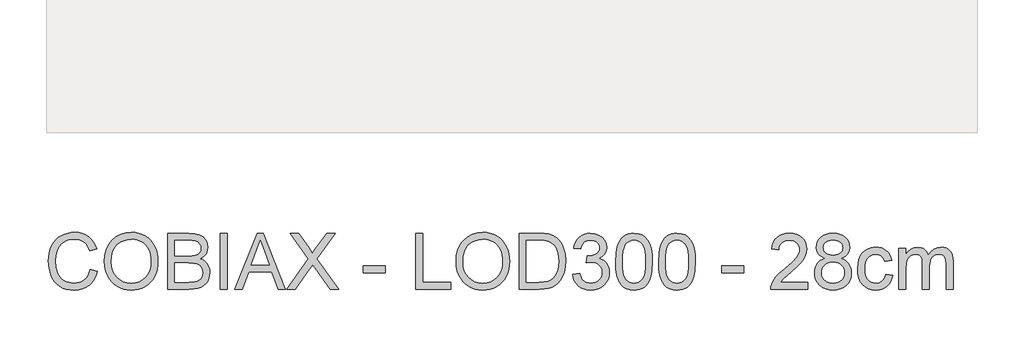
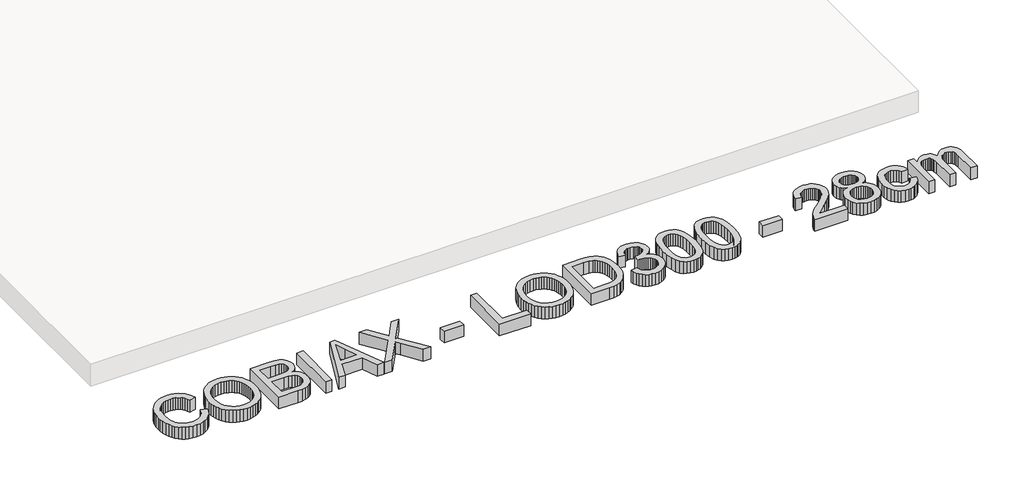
# One storey, part 14 of 18: 1 proxy.
"""IFC4 building model written with IfcOpenShell, lengths in millimetres."""

import ifcopenshell
import ifcopenshell.guid

model = None  # the IFC model being written
_history = None  # IfcOwnerHistory: only IFC2X3 demands one
_inside = {}  # id of a spatial element -> (the spatial element, [elements in it])
_under = {}  # id of a project, library or spatial element -> (it, [spatial elements below it])
_declared = {}  # id of a project -> (the project, [libraries it declares])
_typed = {}  # id of a type object -> (the type object, [elements of that type])
_made_of = {}  # id of a material, layer set ... -> (it, [elements and type objects made of it])


def new_model(schema):
    """Start an empty IFC model of exactly this schema.

    Asked for "IFC4X3", IfcOpenShell would pick the latest addendum, in which some entities
    have other attributes; the version numbers below select the first issue.
    IFC2X3 requires an IfcOwnerHistory on every rooted entity: one is made here for all.
    """
    global model, _history
    if schema == "IFC4X3":
        model = ifcopenshell.file(schema_version=(4, 3, 0, 0))
    else:
        model = ifcopenshell.file(schema=schema)
    _inside.clear()
    _under.clear()
    _declared.clear()
    _typed.clear()
    _made_of.clear()
    _history = None
    if model.schema == "IFC2X3":
        org = make("IfcOrganization", Name="unknown")
        user = make(
            "IfcPersonAndOrganization",
            ThePerson=make("IfcPerson", FamilyName="unknown"),
            TheOrganization=org,
        )
        app = make(
            "IfcApplication",
            ApplicationDeveloper=org,
            Version="unknown",
            ApplicationFullName="unknown",
            ApplicationIdentifier="unknown",
        )
        _history = make(
            "IfcOwnerHistory",
            OwningUser=user,
            OwningApplication=app,
            ChangeAction="ADDED",
            CreationDate=0,
        )
    return model


def make(cls, **values):
    """One entity of the class cls with the attributes given. An attribute that is None is left unset."""
    return model.create_entity(
        cls, **{name: value for name, value in values.items() if value is not None}
    )


def rooted(cls, **values):
    """An entity with a GlobalId (a new one), such as an element, a storey or a relation."""
    return make(cls, GlobalId=ifcopenshell.guid.new(), OwnerHistory=_history, **values)


def si_unit(unit_type, name, prefix=None):
    """IfcSIUnit, for example si_unit("LENGTHUNIT", "METRE", prefix="MILLI")."""
    return make("IfcSIUnit", UnitType=unit_type, Prefix=prefix, Name=name)


def assignment(units):
    """IfcUnitAssignment: the units of a project."""
    return None if units is None else make("IfcUnitAssignment", Units=units)


def point(xyz):
    """IfcCartesianPoint."""
    return None if xyz is None else make("IfcCartesianPoint", Coordinates=xyz)


def direction(xyz):
    """IfcDirection."""
    return None if xyz is None else make("IfcDirection", DirectionRatios=xyz)


def frame(location, z_axis=None, x_axis=None):
    """IfcAxis2Placement3D, a coordinate frame: its origin and axes. An axis left out is left unset."""
    return make(
        "IfcAxis2Placement3D",
        Location=point(location),
        Axis=direction(z_axis),
        RefDirection=direction(x_axis),
    )


def origin():
    """The frame at (0, 0, 0) with its axes left unset."""
    return frame((0.0, 0.0, 0.0))


def origin_with_axes():
    """The frame at (0, 0, 0) with the z axis (0, 0, 1) and the x axis (1, 0, 0) written out."""
    return frame((0.0, 0.0, 0.0), z_axis=(0.0, 0.0, 1.0), x_axis=(1.0, 0.0, 0.0))


def place(relative_to, where):
    """IfcLocalPlacement: puts the frame where relative to a parent placement (None: the world)."""
    return make(
        "IfcLocalPlacement", PlacementRelTo=relative_to, RelativePlacement=where
    )


def context(
    kind, dimensions, precision=None, world=None, true_north=None, identifier=None
):
    """IfcGeometricRepresentationContext, for example the 3D "Model" context."""
    return make(
        "IfcGeometricRepresentationContext",
        ContextIdentifier=identifier,
        ContextType=kind,
        CoordinateSpaceDimension=dimensions,
        Precision=precision,
        WorldCoordinateSystem=world,
        TrueNorth=true_north,
    )


def project(units=None, contexts=None):
    """IfcProject with its units and contexts."""
    return rooted(
        "IfcProject",
        Name="project",
        RepresentationContexts=contexts,
        UnitsInContext=assignment(units),
    )


def spatial(cls, under=None, at=None, **own):
    """A site, building, storey or space (cls), placed at a placement, below another one or the project."""
    s = rooted(cls, ObjectPlacement=at, **own)
    if under is not None:
        _under.setdefault(under.id(), (under, []))[1].append(s)
    return s


def polyline(points):
    """IfcPolyline through the points."""
    return make("IfcPolyline", Points=[point(p) for p in points])


def outline(outer, holes=None, kind="AREA"):
    """IfcArbitraryClosedProfileDef: a profile drawn as a closed curve; with holes, ...WithVoids."""
    if holes is None:
        return make("IfcArbitraryClosedProfileDef", ProfileType=kind, OuterCurve=outer)
    return make(
        "IfcArbitraryProfileDefWithVoids",
        ProfileType=kind,
        OuterCurve=outer,
        InnerCurves=holes,
    )


def extrude(swept, where, along, depth):
    """IfcExtrudedAreaSolid: the profile swept, set in the frame where, extruded along a direction by depth."""
    return make(
        "IfcExtrudedAreaSolid",
        SweptArea=swept,
        Position=where,
        ExtrudedDirection=direction(along),
        Depth=depth,
    )


def shape(context_of_items, identifier, shape_type, items):
    """IfcShapeRepresentation: the items that make up one representation, for example the "Body"."""
    return make(
        "IfcShapeRepresentation",
        ContextOfItems=context_of_items,
        RepresentationIdentifier=identifier,
        RepresentationType=shape_type,
        Items=items,
    )


def made_of(thing, what):
    """Note that an element or type object is made of a material, layer set ...; save() writes the relation."""
    if what is not None:
        _made_of.setdefault(what.id(), (what, []))[1].append(thing)
    return thing


def element(
    cls,
    number,
    at=None,
    inside=None,
    cuts=None,
    type_object=None,
    material=None,
    context=None,
    identifier="Body",
    shape_type=None,
    held_by="IfcProductDefinitionShape",
    body=None,
    shapes=None,
    **own,
):
    """One element of the class cls, such as IfcWall. Its Tag is "e" and its number.

    at: its placement. inside: the storey or other place that contains it. cuts: it is an
    opening in that element (IfcRelVoidsElement). A single representation is given by context,
    identifier, shape_type and body (its items); several are given by shapes. held_by: the class
    of the entity that holds the representations. save() writes the other relations.
    """
    e = rooted(cls, Tag="e%d" % number, ObjectPlacement=at, **own)
    if body is not None:
        shapes = [shape(context, identifier, shape_type, body)]
    if shapes is not None:
        e.Representation = make(held_by, Representations=shapes)
    if inside is not None:
        _inside.setdefault(inside.id(), (inside, []))[1].append(e)
    if cuts is not None:
        rooted(
            "IfcRelVoidsElement", RelatingBuildingElement=cuts, RelatedOpeningElement=e
        )
    if type_object is not None:
        _typed.setdefault(type_object.id(), (type_object, []))[1].append(e)
    return made_of(e, material)


def aggregate(whole, parts):
    """IfcRelAggregates: a whole, such as a stair, and the parts it consists of."""
    return rooted("IfcRelAggregates", RelatingObject=whole, RelatedObjects=parts)


def save(model, path):
    """Write the relations noted so far, then the file.

    IfcRelAggregates (storeys below a building ...), IfcRelContainedInSpatialStructure (elements
    in a storey), IfcRelDefinesByType, IfcRelAssociatesMaterial and IfcRelDeclares: one each for
    every whole, place, type object, material and project.
    """
    for whole, parts in _under.values():
        aggregate(whole, parts)
    for where, things in _inside.values():
        rooted(
            "IfcRelContainedInSpatialStructure",
            RelatedElements=things,
            RelatingStructure=where,
        )
    for kind, things in _typed.values():
        rooted("IfcRelDefinesByType", RelatedObjects=things, RelatingType=kind)
    for what, things in _made_of.values():
        rooted("IfcRelAssociatesMaterial", RelatedObjects=things, RelatingMaterial=what)
    for by, libraries in _declared.values():
        rooted("IfcRelDeclares", RelatingContext=by, RelatedDefinitions=libraries)
    model.write(path)


model = new_model("IFC4")

# Units and contexts
model_context = context("Model", 3, world=origin())
ifc_project = project(units=[si_unit("LENGTHUNIT", "METRE", prefix="MILLI")], contexts=[model_context])

# Site, building, storey
site = spatial("IfcSite", under=ifc_project)
building = spatial("IfcBuilding", under=site)
storey = spatial("IfcBuildingStorey", under=building, Name="COBIAX Slabs", Elevation=0.0)

# Proxy
placement = place(None, origin())
element("IfcBuildingElementProxy", 1, Name="600mm Arial", ObjectType="600mm Arial", at=placement, inside=storey, context=model_context, shape_type="SweptSolid", body=[
    extrude(outline(polyline([(24798.2153953, -6620.9127725), (24873.5576279, -6640.3369419), (24858.64921, -6687.1913125), (24838.7927794, -6728.13198), (24813.9883358, -6763.1589445), (24784.2358795, -6792.2722059), (24750.2067949, -6815.1590645), (24712.5724668, -6831.5068207), (24671.3328952, -6841.3154744), (24626.4880799, -6844.5850256), (24580.5442173, -6842.1110192), (24539.097712, -6834.6889999), (24502.1485641, -6822.3189678), (24469.6967736, -6805.0009229), (24441.2962836, -6782.9923826), (24416.5010371, -6756.5508642), (24395.3110342, -6725.6763677), (24377.7262748, -6690.3688932), (24363.9169044, -6652.155151), (24354.0530684, -6612.5618512), (24348.1347668, -6571.588994), (24346.1619996, -6529.2365793), (24348.3922842, -6483.7939559), (24355.083138, -6441.3495707), (24366.234561, -6401.9034238), (24381.8465531, -6365.4555151), (24401.5696266, -6332.6082514), (24425.0542935, -6303.9640396), (24452.3005538, -6279.5228795), (24483.3084074, -6259.2847713), (24517.0247923, -6243.4152617), (24552.3966461, -6232.0798977), (24589.4239689, -6225.2786793), (24628.1067607, -6223.0116065), (24671.1995379, -6225.9454655), (24710.7146627, -6234.7470422), (24746.6521351, -6249.4163368), (24779.0119551, -6269.9533491), (24807.2606938, -6295.8154534), (24830.8649224, -6326.4600236), (24849.8246407, -6361.8870597), (24864.1398488, -6402.0965618), (24788.7976162, -6420.0492032), (24776.9334219, -6390.420907), (24762.6779946, -6365.1060272), (24746.0313343, -6344.1045638), (24726.993441, -6327.4165168), (24705.4539502, -6314.7015953), (24681.3024972, -6305.6195086), (24654.5390821, -6300.1702565), (24625.1637048, -6298.3538392), (24591.3645465, -6300.3679931), (24560.4532618, -6306.4104549), (24532.4298508, -6316.4812245), (24507.2943135, -6330.5803019), (24485.3639481, -6348.0730908), (24466.9560527, -6368.3249946), (24452.0706275, -6391.3360134), (24440.7076724, -6417.1061472), (24426.3050923, -6472.2516583), (24421.5042322, -6529.0894265), (24427.1880091, -6598.6927), (24434.2927301, -6629.9626696), (24444.2393395, -6658.8781944), (24457.1887858, -6684.8644589), (24473.3020171, -6707.3466473), (24492.5790337, -6726.3247597), (24515.0198354, -6741.7987961), (24539.5345719, -6753.8055448), (24565.0333926, -6762.3817938), (24591.5162978, -6767.5275432), (24618.9832872, -6769.242793), (24651.7385804, -6766.9067423), (24681.8727143, -6759.8985903), (24709.385689, -6748.218337), (24734.2775045, -6731.8659823), (24755.9595496, -6710.9151027), (24773.8432131, -6685.4392745), (24787.928495, -6655.4384978), (24798.2153953, -6620.9127725)])), origin_with_axes(), (0.0, 0.0, 1.0), 150.0),
    extrude(outline(polyline([(24948.8998605, -6541.7445672), (24953.9214497, -6471.0468447), (24968.9862175, -6408.4609203), (24994.0941636, -6353.9867939), (25010.4143286, -6329.7916549), (25029.2452883, -6307.6244654), (25072.3334669, -6270.6063397), (25121.2525753, -6244.1648213), (25176.0026132, -6228.2999102), (25236.5835807, -6223.0116065), (25277.1333737, -6225.49481), (25315.6414215, -6232.9444204), (25352.1077243, -6245.3604378), (25386.532282, -6262.742862), (25417.9494044, -6284.5674614), (25445.3934012, -6310.310004), (25468.8642725, -6339.9704899), (25488.3620182, -6373.548919), (25503.6843033, -6410.2819362), (25514.6287927, -6449.4061864), (25521.1954863, -6490.9216695), (25523.3843842, -6534.8283857), (25521.0805232, -6579.3145159), (25514.1689402, -6621.3910191), (25502.6496352, -6661.0578953), (25486.5226083, -6698.3151443), (25466.1695369, -6732.178682), (25441.9720986, -6761.6644239), (25413.9302936, -6786.7723701), (25382.0441216, -6807.5025205), (25347.5689802, -6823.7261165), (25311.7602665, -6835.3143993), (25274.6179805, -6842.267369), (25236.1421223, -6844.5850256), (25194.8841566, -6842.0236472), (25155.870271, -6834.339512), (25119.1004656, -6821.5326201), (25084.5747403, -6803.6029713), (25053.1944061, -6781.2449431), (25025.8607739, -6755.1529126), (25002.5738436, -6725.3268798), (24983.3336153, -6691.7668448), (24968.2688476, -6655.8201753), (24957.5082992, -6618.8342393), (24951.0519702, -6580.8090365), (24948.8998605, -6541.7445672)]), holes=[polyline([(25024.2420931, -6542.4803312), (25028.0082851, -6592.4295091), (25039.3068608, -6636.7684865), (25058.1378205, -6675.4972636), (25084.5011639, -6708.6158402), (25116.5482842, -6735.140132), (25152.4305743, -6754.0860548), (25192.1480343, -6765.4536084), (25235.700664, -6769.242793), (25279.9982547, -6765.4168202), (25320.1847641, -6753.938902), (25356.2601923, -6734.8090382), (25388.2245392, -6708.027229), (25414.3947446, -6674.2096766), (25433.0877485, -6633.9725834), (25444.3035508, -6587.3159493), (25448.0421516, -6534.2397745), (25446.4418649, -6499.7600345), (25441.6410049, -6467.5427687), (25433.6395715, -6437.5879773), (25422.4375647, -6409.8956601), (25408.1591448, -6384.8291007), (25390.9284718, -6362.7515824), (25370.7455459, -6343.6631054), (25347.6103669, -6327.5636696), (25322.2403048, -6314.7843688), (25295.3527295, -6305.6562968), (25266.9476409, -6300.1794536), (25237.0250391, -6298.3538392), (25194.9853241, -6301.8717107), (25155.9806356, -6312.4253255), (25120.0109735, -6330.0146834), (25087.0763379, -6354.6397844), (25059.5863558, -6387.4870481), (25039.9506543, -6429.7428937), (25028.1692334, -6481.4073214), (25024.2420931, -6542.4803312)])]), origin_with_axes(), (0.0, 0.0, 1.0), 150.0),
    extrude(outline(polyline([(25626.979954, -6835.1672465), (25626.979954, -6232.4293856), (25856.9797774, -6232.4293856), (25920.2370865, -6236.8623637), (25969.6252443, -6250.1612978), (25989.7024042, -6260.2182718), (26007.4803016, -6272.6572818), (26022.9589366, -6287.4783277), (26036.1383091, -6304.6814095), (26054.1829209, -6342.3525258), (26060.1977915, -6381.7894757), (26055.1394141, -6418.0810345), (26039.9642818, -6452.2020895), (26014.56203, -6482.0557135), (25978.8222942, -6505.5449788), (26001.562, -6515.2386694), (26021.5149998, -6527.8386278), (26038.6812934, -6543.3448538), (26053.0608808, -6561.7573477), (26064.423836, -6582.5150893), (26072.5402325, -6605.0570585), (26077.4100704, -6629.3832555), (26079.0333497, -6655.4936801), (26074.6003717, -6697.524198), (26061.3014375, -6736.5012954), (26041.4542039, -6769.6474632), (26017.3763273, -6794.1851923), (25987.8905854, -6811.9538926), (25951.8197558, -6824.7929743), (25907.986616, -6832.5736785), (25855.2139438, -6835.1672465), (25626.979954, -6835.1672465)]), holes=[polyline([(25702.3221866, -6477.2916416), (25839.9100528, -6477.2916416), (25888.0290178, -6475.6729608), (25920.2554806, -6470.8169185), (25948.3800591, -6459.6516999), (25968.5951747, -6442.9314633), (25980.7904629, -6420.9137259), (25984.8555589, -6393.8560051), (25981.0663744, -6367.5892307), (25969.6988207, -6344.7069706), (25951.2679328, -6326.8462997), (25926.2887453, -6315.6442929), (25887.9554414, -6309.7397869), (25829.4622042, -6307.7716182), (25702.3221866, -6307.7716182), (25702.3221866, -6477.2916416)]), polyline([(25702.3221866, -6759.8250139), (25856.8326246, -6759.8250139), (25912.7506879, -6756.8819579), (25938.7047626, -6750.3520525), (25960.0603125, -6740.474421), (25977.4243426, -6726.3293582), (25991.4038584, -6706.9971594), (26000.6193024, -6683.3423471), (26003.6911171, -6656.2294441), (26000.0858735, -6624.7387453), (25989.2701429, -6597.6626304), (25970.3794024, -6576.4910216), (25942.5491295, -6562.7138409), (25903.1305737, -6555.1538659), (25849.4749847, -6552.6338742), (25702.3221866, -6552.6338742), (25702.3221866, -6759.8250139)])]), origin_with_axes(), (0.0, 0.0, 1.0), 150.0),
    extrude(outline(polyline([(26192.0466986, -6835.1672465), (26192.0466986, -6232.4293856), (26267.3889312, -6232.4293856), (26267.3889312, -6835.1672465), (26192.0466986, -6835.1672465)])), origin_with_axes(), (0.0, 0.0, 1.0), 150.0),
    extrude(outline(polyline([(26347.8815118, -6835.1672465), (26588.4763366, -6232.4293856), (26652.6349566, -6232.4293856), (26893.2297814, -6835.1672465), (26813.6201177, -6835.1672465), (26744.6054554, -6646.811665), (26496.358685, -6646.811665), (26427.4911755, -6835.1672465), (26347.8815118, -6835.1672465)]), holes=[polyline([(26524.0234111, -6571.4694324), (26717.0878821, -6571.4694324), (26662.7884996, -6423.2865647), (26620.5556466, -6307.7716182), (26583.0316831, -6410.3371185), (26524.0234111, -6571.4694324)])]), origin_with_axes(), (0.0, 0.0, 1.0), 150.0),
    extrude(outline(polyline([(26907.7979084, -6835.1672465), (27140.1521766, -6506.7222012), (26945.4690247, -6232.4293856), (27035.8208428, -6232.4293856), (27145.4496773, -6386.7926708), (27171.6060872, -6425.8985269), (27182.3850296, -6446.9781652), (27225.6479523, -6385.7626012), (27334.0995644, -6232.4293856), (27425.7757576, -6232.4293856), (27231.0926058, -6507.605118), (27463.4468739, -6835.1672465), (27373.0950559, -6835.1672465), (27218.2903124, -6616.7924942), (27186.0638496, -6571.4694324), (27150.6000252, -6621.2070781), (26999.4741016, -6835.1672465), (26907.7979084, -6835.1672465)])), origin_with_axes(), (0.0, 0.0, 1.0), 150.0),
    extrude(outline(polyline([(27727.1446881, -6656.2294441), (27727.1446881, -6580.8872115), (27962.589165, -6580.8872115), (27962.589165, -6656.2294441), (27727.1446881, -6656.2294441)])), origin_with_axes(), (0.0, 0.0, 1.0), 150.0),
    extrude(outline(polyline([(28292.2114327, -6835.1672465), (28292.2114327, -6232.4293856), (28367.5536653, -6232.4293856), (28367.5536653, -6759.8250139), (28668.9225957, -6759.8250139), (28668.9225957, -6835.1672465), (28292.2114327, -6835.1672465)])), origin_with_axes(), (0.0, 0.0, 1.0), 150.0),
    extrude(outline(polyline([(28725.4292702, -6541.7445672), (28730.4508594, -6471.0468447), (28745.5156271, -6408.4609203), (28770.6235733, -6353.9867939), (28786.9437383, -6329.7916549), (28805.7746979, -6307.6244654), (28848.8628766, -6270.6063397), (28897.7819849, -6244.1648213), (28952.5320229, -6228.2999102), (29013.1129904, -6223.0116065), (29053.6627833, -6225.49481), (29092.1708312, -6232.9444204), (29128.637134, -6245.3604378), (29163.0616917, -6262.742862), (29194.4788141, -6284.5674614), (29221.9228109, -6310.310004), (29245.3936822, -6339.9704899), (29264.8914279, -6373.548919), (29280.213713, -6410.2819362), (29291.1582024, -6449.4061864), (29297.724896, -6490.9216695), (29299.9137939, -6534.8283857), (29297.6099329, -6579.3145159), (29290.6983499, -6621.3910191), (29279.1790449, -6661.0578953), (29263.052018, -6698.3151443), (29242.6989466, -6732.178682), (29218.5015083, -6761.6644239), (29190.4597033, -6786.7723701), (29158.5735313, -6807.5025205), (29124.0983898, -6823.7261165), (29088.2896761, -6835.3143993), (29051.1473902, -6842.267369), (29012.671532, -6844.5850256), (28971.4135663, -6842.0236472), (28932.3996807, -6834.339512), (28895.6298753, -6821.5326201), (28861.10415, -6803.6029713), (28829.7238158, -6781.2449431), (28802.3901836, -6755.1529126), (28779.1032533, -6725.3268798), (28759.8630249, -6691.7668448), (28744.7982572, -6655.8201753), (28734.0377089, -6618.8342393), (28727.5813799, -6580.8090365), (28725.4292702, -6541.7445672)]), holes=[polyline([(28800.7715028, -6542.4803312), (28804.5376947, -6592.4295091), (28815.8362705, -6636.7684865), (28834.6672301, -6675.4972636), (28861.0305736, -6708.6158402), (28893.0776939, -6735.140132), (28928.959984, -6754.0860548), (28968.6774439, -6765.4536084), (29012.2300736, -6769.242793), (29056.5276644, -6765.4168202), (29096.7141738, -6753.938902), (29132.789602, -6734.8090382), (29164.7539488, -6708.027229), (29190.9241543, -6674.2096766), (29209.6171582, -6633.9725834), (29220.8329605, -6587.3159493), (29224.5715613, -6534.2397745), (29222.9712746, -6499.7600345), (29218.1704145, -6467.5427687), (29210.1689811, -6437.5879773), (29198.9669744, -6409.8956601), (29184.6885545, -6384.8291007), (29167.4578815, -6362.7515824), (29147.2749555, -6343.6631054), (29124.1397766, -6327.5636696), (29098.7697145, -6314.7843688), (29071.8821392, -6305.6562968), (29043.4770506, -6300.1794536), (29013.5544488, -6298.3538392), (28971.5147338, -6301.8717107), (28932.5100453, -6312.4253255), (28896.5403832, -6330.0146834), (28863.6057476, -6354.6397844), (28836.1157655, -6387.4870481), (28816.480064, -6429.7428937), (28804.6986431, -6481.4073214), (28800.7715028, -6542.4803312)])]), origin_with_axes(), (0.0, 0.0, 1.0), 150.0),
    extrude(outline(polyline([(29403.5093637, -6835.1672465), (29403.5093637, -6232.4293856), (29611.4362674, -6232.4293856), (29673.5715364, -6234.5998894), (29719.0049628, -6241.1114007), (29767.0503513, -6257.8500315), (29807.5909472, -6284.2271705), (29829.9305814, -6305.7850555), (29849.2719773, -6330.1388435), (29865.6151349, -6357.2885348), (29878.9600543, -6387.2341292), (29889.3251295, -6419.6997153), (29896.7287546, -6454.4093815), (29902.6516548, -6530.5609545), (29898.641741, -6595.2530034), (29886.6119998, -6652.1827421), (29868.2914764, -6700.651195), (29845.4092163, -6739.9593862), (29819.0688655, -6770.9902325), (29790.3740698, -6794.6266507), (29757.4302372, -6812.1562277), (29718.3427752, -6824.8665507), (29673.0381075, -6832.5920726), (29621.4426577, -6835.1672465), (29403.5093637, -6835.1672465)]), holes=[polyline([(29478.8515963, -6759.8250139), (29612.1720314, -6759.8250139), (29667.3175425, -6757.1026871), (29709.1457253, -6748.9357069), (29740.7100005, -6735.8023196), (29765.0637886, -6718.1807721), (29791.2385925, -6685.5680332), (29810.9018852, -6643.3535742), (29823.2075379, -6591.3534542), (29827.3094222, -6529.3837321), (29825.2998668, -6485.6425629), (29819.2712006, -6447.2724708), (29809.2234236, -6414.2734558), (29795.1565358, -6386.645518), (29778.2109714, -6363.7632579), (29759.5271645, -6345.0012761), (29739.1051153, -6330.3595727), (29716.9448236, -6319.8381477), (29673.6083246, -6310.7882506), (29610.1118922, -6307.7716182), (29478.8515963, -6307.7716182), (29478.8515963, -6759.8250139)])]), origin_with_axes(), (0.0, 0.0, 1.0), 150.0),
    extrude(outline(polyline([(29977.9938874, -6675.0650022), (30053.33612, -6665.6472231), (30070.2035095, -6712.9936359), (30081.5756616, -6730.900292), (30094.9067854, -6744.9625813), (30110.5003835, -6755.5851739), (30128.6599585, -6763.1727401), (30149.3855104, -6767.7252798), (30172.6770392, -6769.242793), (30199.9738833, -6767.1550627), (30224.3276713, -6760.8918717), (30245.7384035, -6750.4532201), (30264.2060796, -6735.8391078), (30279.0777093, -6718.1439839), (30289.7003019, -6698.4622971), (30296.0738575, -6676.7940476), (30298.198376, -6653.1392353), (30296.0922516, -6630.6110616), (30289.7738783, -6610.115436), (30279.2432562, -6591.6523583), (30264.5003852, -6575.2218287), (30246.5109557, -6561.7343551), (30226.2406577, -6552.1004453), (30203.6894914, -6546.3200995), (30178.8574567, -6544.3933175), (30155.0554917, -6546.4534567), (30126.0296022, -6552.6338742), (30134.4173117, -6477.2916416), (30146.4838412, -6478.1745584), (30191.622962, -6472.7666931), (30231.9796168, -6456.5430971), (30248.5894889, -6444.2742325), (30260.4536833, -6429.0991002), (30267.5721999, -6411.0177002), (30269.9450388, -6390.0300324), (30268.2251904, -6372.9924975), (30263.0656454, -6357.4908699), (30254.4664038, -6343.5251496), (30242.4274655, -6331.0953367), (30227.6753975, -6320.8912099), (30210.9367667, -6313.6025479), (30171.4998168, -6307.7716182), (30150.8432428, -6309.2431462), (30131.9892906, -6313.6577302), (30114.9379601, -6321.0153701), (30099.6892514, -6331.3160659), (30086.6202435, -6344.5598178), (30076.1080155, -6360.7466255), (30068.1525673, -6379.8764893), (30062.7538991, -6401.949409), (29987.4116665, -6392.5316299), (29996.3420019, -6356.5619678), (30009.5949508, -6324.878131), (30027.1705131, -6297.4801194), (30049.0686888, -6274.3679331), (30074.5996993, -6256.0198186), (30103.0737657, -6242.9140225), (30134.4908881, -6235.0505448), (30168.8510665, -6232.4293856), (30216.2158734, -6237.5981277), (30259.7179193, -6253.1043538), (30296.3957542, -6277.5685064), (30323.2879281, -6309.6110282), (30339.7874355, -6346.5279864), (30345.2872714, -6385.6154484), (30340.063347, -6422.0357659), (30324.391574, -6455.0715691), (30298.4926816, -6483.2145417), (30262.5873988, -6504.9563677), (30287.695345, -6512.8106482), (30309.7498706, -6524.012655), (30328.7509757, -6538.5623879), (30344.6986602, -6556.459847), (30357.3170126, -6577.2635738), (30366.3301215, -6600.53211), (30371.7379868, -6626.2654556), (30373.5406086, -6654.4636105), (30369.935365, -6692.6865498), (30359.1196344, -6727.8928567), (30341.0934166, -6760.0825313), (30315.8567117, -6789.2555735), (30285.110974, -6813.4622088), (30250.5576576, -6830.7526626), (30212.1967626, -6841.1269348), (30170.0282889, -6844.5850256), (30131.9157142, -6841.6327726), (30097.1876538, -6832.7760136), (30065.8441078, -6818.0147485), (30037.8850762, -6797.3489774), (30014.4417961, -6771.9927109), (29996.6455045, -6743.1599595), (29984.4962016, -6710.8507233), (29977.9938874, -6675.0650022)])), origin_with_axes(), (0.0, 0.0, 1.0), 150.0),
    extrude(outline(polyline([(30439.4650621, -6538.6543584), (30445.0016862, -6442.1773052), (30451.9224662, -6401.2642288), (30461.6115582, -6365.2347859), (30474.0275756, -6333.7946709), (30489.1291315, -6306.6495782), (30506.9162259, -6283.7995077), (30527.388859, -6265.2444596), (30550.6160084, -6250.8878647), (30576.6666522, -6240.6331541), (30605.5407903, -6234.4803277), (30637.2384227, -6232.4293856), (30683.6651305, -6237.285428), (30725.235796, -6251.853555), (30760.0006445, -6275.5635496), (30786.0099016, -6307.8451946), (30805.6548001, -6348.4225787), (30821.3265731, -6397.0197903), (30831.5904808, -6458.731995), (30835.0117833, -6538.6543584), (30829.5303416, -6634.5795887), (30822.6785395, -6675.3547093), (30813.0860164, -6711.3381669), (30800.7665681, -6742.7920775), (30785.7339901, -6769.978557), (30767.9882823, -6792.8976053), (30747.5294449, -6811.5492224), (30724.2747043, -6826.0023863), (30698.141287, -6836.3260748), (30669.1291932, -6842.5202879), (30637.2384227, -6844.5850256), (30595.7413337, -6840.9981761), (30558.9531342, -6830.2376278), (30526.8738242, -6812.3033805), (30499.5034037, -6787.1954344), (30473.2366293, -6741.8079932), (30454.4746475, -6685.2553335), (30443.2174585, -6617.5374552), (30439.4650621, -6538.6543584)]), holes=[polyline([(30514.8072947, -6538.5072056), (30517.0145867, -6604.0039963), (30523.6364626, -6657.0203904), (30534.6729225, -6697.5563877), (30550.1239663, -6725.6119884), (30568.8123716, -6744.7004654), (30589.5609162, -6758.3350918), (30612.3695999, -6766.5158677), (30637.2384227, -6769.242793), (30662.1072456, -6766.5066706), (30684.9159293, -6758.2983036), (30705.6644738, -6744.6176919), (30724.3528792, -6725.4648356), (30739.803923, -6697.3632497), (30750.8403828, -6656.8364494), (30757.4622588, -6603.8844347), (30759.6695507, -6538.5072056), (30757.5358352, -6474.7440588), (30751.1346884, -6422.6611653), (30740.4661106, -6382.2585252), (30725.5301016, -6353.5361384), (30707.1543959, -6333.5141609), (30686.1667281, -6319.2127483), (30662.5670981, -6310.6319008), (30636.3555059, -6307.7716182), (30611.6154418, -6310.2916099), (30589.1930342, -6317.8515849), (30569.0882831, -6330.4515432), (30551.3011887, -6348.0914849), (30535.3351101, -6379.3614545), (30523.9307682, -6421.5207311), (30517.0881631, -6474.5693149), (30514.8072947, -6538.5072056)])]), origin_with_axes(), (0.0, 0.0, 1.0), 150.0),
    extrude(outline(polyline([(30900.9362369, -6538.6543584), (30906.4728609, -6442.1773052), (30913.3936409, -6401.2642288), (30923.082733, -6365.2347859), (30935.4987503, -6333.7946709), (30950.6003062, -6306.6495782), (30968.3874007, -6283.7995077), (30988.8600337, -6265.2444596), (31012.0871832, -6250.8878647), (31038.137827, -6240.6331541), (31067.0119651, -6234.4803277), (31098.7095975, -6232.4293856), (31145.1363053, -6237.285428), (31186.7069707, -6251.853555), (31221.4718193, -6275.5635496), (31247.4810763, -6307.8451946), (31267.1259749, -6348.4225787), (31282.7977479, -6397.0197903), (31293.0616555, -6458.731995), (31296.4829581, -6538.6543584), (31291.0015164, -6634.5795887), (31284.1497142, -6675.3547093), (31274.5571912, -6711.3381669), (31262.2377429, -6742.7920775), (31247.2051648, -6769.978557), (31229.4594571, -6792.8976053), (31209.0006196, -6811.5492224), (31185.745879, -6826.0023863), (31159.6124618, -6836.3260748), (31130.6003679, -6842.5202879), (31098.7095975, -6844.5850256), (31057.2125084, -6840.9981761), (31020.4243089, -6830.2376278), (30988.3449989, -6812.3033805), (30960.9745785, -6787.1954344), (30934.707804, -6741.8079932), (30915.9458223, -6685.2553335), (30904.6886332, -6617.5374552), (30900.9362369, -6538.6543584)]), holes=[polyline([(30976.2784695, -6538.5072056), (30978.4857615, -6604.0039963), (30985.1076374, -6657.0203904), (30996.1440972, -6697.5563877), (31011.595141, -6725.6119884), (31030.2835464, -6744.7004654), (31051.0320909, -6758.3350918), (31073.8407746, -6766.5158677), (31098.7095975, -6769.242793), (31123.5784204, -6766.5066706), (31146.3871041, -6758.2983036), (31167.1356486, -6744.6176919), (31185.8240539, -6725.4648356), (31201.2750977, -6697.3632497), (31212.3115576, -6656.8364494), (31218.9334335, -6603.8844347), (31221.1407255, -6538.5072056), (31219.0070099, -6474.7440588), (31212.6058632, -6422.6611653), (31201.9372853, -6382.2585252), (31187.0012763, -6353.5361384), (31168.6255707, -6333.5141609), (31147.6379028, -6319.2127483), (31124.0382729, -6310.6319008), (31097.8266807, -6307.7716182), (31073.0866165, -6310.2916099), (31050.6642089, -6317.8515849), (31030.5594579, -6330.4515432), (31012.7723634, -6348.0914849), (30996.8062848, -6379.3614545), (30985.401943, -6421.5207311), (30978.5593379, -6474.5693149), (30976.2784695, -6538.5072056)])]), origin_with_axes(), (0.0, 0.0, 1.0), 150.0),
    extrude(outline(polyline([(31579.0163304, -6656.2294441), (31579.0163304, -6580.8872115), (31814.4608073, -6580.8872115), (31814.4608073, -6656.2294441), (31579.0163304, -6656.2294441)])), origin_with_axes(), (0.0, 0.0, 1.0), 150.0),
    extrude(outline(polyline([(32501.9586799, -6759.8250139), (32501.9586799, -6835.1672465), (32106.4119587, -6835.1672465), (32108.0674277, -6808.6429547), (32114.5053626, -6783.2223088), (32133.0834033, -6742.6265306), (32160.2698828, -6703.2447631), (32199.5964681, -6662.0235855), (32254.5948263, -6615.9095774), (32335.8967473, -6543.6943417), (32384.6778998, -6490.3882406), (32398.905736, -6468.6096265), (32409.0684761, -6447.125318), (32415.1661202, -6425.9353151), (32417.1986682, -6405.0396178), (32415.2810833, -6385.3809236), (32409.5283286, -6367.3133192), (32399.9404041, -6350.8368043), (32386.5173098, -6335.9513791), (32370.0040067, -6323.6227337), (32351.145456, -6314.8165584), (32329.9416575, -6309.5328533), (32306.3926113, -6307.7716182), (32281.5835692, -6309.4914666), (32259.3956864, -6314.6510115), (32239.8289627, -6323.2502532), (32222.8833983, -6335.2891915), (32209.1751955, -6350.3631562), (32199.3205566, -6368.0674772), (32193.3194815, -6388.4021545), (32191.1719704, -6411.3671881), (32115.8297378, -6401.949409), (32122.3090594, -6363.0550851), (32134.0950788, -6329.0719858), (32151.187796, -6300.0001111), (32173.587211, -6275.8394611), (32200.778289, -6256.8475531), (32232.2459951, -6243.2819045), (32267.9903295, -6235.1425153), (32308.011292, -6232.4293856), (32348.3909395, -6235.446018), (32384.3284119, -6244.4959151), (32415.8237092, -6259.5790769), (32442.8768315, -6280.6955034), (32464.6048618, -6306.2816962), (32480.1248835, -6334.7741567), (32489.4368965, -6366.172885), (32492.5409008, -6400.477881), (32489.1931747, -6436.5119224), (32479.1499962, -6471.9205645), (32461.3261135, -6507.9362118), (32434.6362748, -6545.7912691), (32392.090722, -6590.9855722), (32326.6996974, -6649.018957), (32240.0266993, -6721.49171), (32206.034403, -6759.8250139), (32501.9586799, -6759.8250139)])), origin_with_axes(), (0.0, 0.0, 1.0), 150.0),
    extrude(outline(polyline([(32687.0768999, -6503.1905341), (32646.7386391, -6483.3249063), (32631.0806617, -6470.7433421), (32618.4301196, -6456.3959443), (32601.7098829, -6422.9554709), (32596.1364707, -6383.5553092), (32599.1714971, -6352.8279656), (32608.2765765, -6324.6574018), (32623.4517088, -6299.0436179), (32644.696894, -6275.9866139), (32670.9912596, -6256.9303265), (32701.3139331, -6243.3186927), (32735.6649144, -6235.1517124), (32774.0442035, -6232.4293856), (32812.6074337, -6235.2160917), (32847.2159324, -6243.5762101), (32877.8696996, -6257.5097406), (32904.5687354, -6277.0166834), (32926.2001967, -6300.5243429), (32941.6512405, -6326.4600236), (32950.9218668, -6354.8237254), (32954.0120756, -6385.6154484), (32948.5122397, -6423.7464172), (32932.0127322, -6456.6166735), (32919.5921164, -6470.8675023), (32904.3296121, -6483.3800886), (32865.2789383, -6503.1905341), (32890.0419951, -6513.7257547), (32911.6504638, -6527.0844697), (32930.1043444, -6543.2666789), (32945.4036369, -6562.2723825), (32957.4103855, -6583.6785161), (32965.9866345, -6607.0620154), (32971.1323839, -6632.4228805), (32972.8476337, -6659.7611112), (32969.4447253, -6697.340257), (32959.2359999, -6731.7924059), (32942.2214576, -6763.1175578), (32918.4010984, -6791.3157127), (32889.0257211, -6814.6210371), (32855.3461245, -6831.2676974), (32817.3623085, -6841.2556935), (32775.0742731, -6844.5850256), (32732.7862378, -6841.241898), (32694.8024218, -6831.2125151), (32661.1228251, -6814.4968769), (32631.7474478, -6791.0949835), (32607.9270886, -6762.699092), (32590.9125463, -6731.0014596), (32580.703821, -6696.0020863), (32577.3009125, -6657.700972), (32579.0851402, -6629.116541), (32584.4378232, -6602.9601312), (32593.3589616, -6579.2317425), (32605.8485553, -6557.931375), (32621.6306929, -6539.4453047), (32640.4294629, -6524.1598078), (32662.2448652, -6512.0748843), (32687.0768999, -6503.1905341)]), holes=[polyline([(32671.4787033, -6385.7626012), (32673.1479678, -6403.0346609), (32678.1557615, -6418.6512516), (32686.5020842, -6432.6123733), (32698.1869361, -6444.918026), (32713.0631643, -6454.9612045), (32730.983616, -6462.1349034), (32751.9482912, -6466.4391228), (32775.9571899, -6467.8738625), (32799.3728789, -6466.4483198), (32819.8823001, -6462.1716916), (32837.4854536, -6455.043978), (32852.1823393, -6445.0651788), (32863.7706221, -6433.0170435), (32872.047967, -6419.6813212), (32877.014374, -6405.0580119), (32878.6698429, -6389.1471156), (32876.9591917, -6372.6154184), (32871.8272378, -6357.4540817), (32863.2739815, -6343.6631054), (32851.2994225, -6331.2424895), (32836.271443, -6320.9739833), (32818.5579249, -6313.6393361), (32798.1588683, -6309.2385477), (32775.0742731, -6307.7716182), (32751.8103354, -6309.206358), (32731.3147098, -6313.5105774), (32713.5873961, -6320.6842763), (32698.6283945, -6330.7274547), (32686.7504046, -6342.7755901), (32678.2661261, -6355.9641596), (32673.175559, -6370.2931633), (32671.4787033, -6385.7626012)]), polyline([(32652.6431451, -6655.0522217), (32655.7885362, -6683.875776), (32665.2247093, -6711.7796253), (32682.6439218, -6736.1150193), (32709.7384308, -6754.2332076), (32742.1856227, -6765.4903966), (32775.6628843, -6769.242793), (32802.904546, -6767.2700258), (32826.9456344, -6761.3517242), (32847.7861495, -6751.4878882), (32865.4260911, -6737.6785178), (32879.4607892, -6720.8249239), (32889.4855736, -6701.8284174), (32895.5004442, -6680.6889982), (32897.5054011, -6657.4066665), (32895.4360649, -6633.7518542), (32889.2280562, -6612.2307574), (32878.8813751, -6592.8433763), (32864.3960215, -6575.5897107), (32846.2778333, -6561.4262539), (32825.0326481, -6551.309499), (32800.6604659, -6545.2394461), (32773.1612867, -6543.2160952), (32746.3196967, -6545.211855), (32722.5959065, -6551.1991344), (32701.9899162, -6561.1779336), (32684.5017259, -6575.1482523), (32670.5635968, -6592.1168094), (32660.6077903, -6611.0903233), (32654.6343064, -6632.068794), (32652.6431451, -6655.0522217)])]), origin_with_axes(), (0.0, 0.0, 1.0), 150.0),
    extrude(outline(polyline([(33340.1410177, -6675.0650022), (33415.4832503, -6684.4827813), (33407.2886789, -6720.0339776), (33394.4771884, -6751.4924867), (33377.0487789, -6778.8583086), (33355.0034503, -6802.1314434), (33329.2701047, -6820.7048856), (33300.7776442, -6833.97163), (33269.5260687, -6841.9316767), (33235.5153783, -6844.5850256), (33193.2595326, -6840.883213), (33155.3722856, -6829.7777753), (33121.8536373, -6811.2687124), (33092.7035877, -6785.3560244), (33069.1085563, -6752.5271548), (33052.2549624, -6713.2695474), (33042.142806, -6667.5832021), (33038.7720873, -6615.468119), (33044.5294405, -6548.4216254), (33051.726132, -6518.2507033), (33061.8015001, -6490.3146642), (33074.8245228, -6465.1745284), (33090.8641778, -6443.3913158), (33109.9204651, -6424.9650263), (33131.9933848, -6409.8956601), (33156.085057, -6398.1786186), (33181.1976017, -6389.8093032), (33207.3310189, -6384.7877139), (33234.4853087, -6383.1138508), (33267.9119865, -6385.4131133), (33298.1472879, -6392.3109007), (33325.1912131, -6403.8072131), (33349.043762, -6419.9020504), (33369.3002643, -6440.2275306), (33385.55605, -6464.4157718), (33397.811119, -6492.4667739), (33406.0654712, -6524.380537), (33330.7232386, -6533.7983161), (33317.0564225, -6500.9280598), (33295.7744491, -6477.365218), (33268.0545407, -6463.1833671), (33235.0739199, -6458.4560835), (33209.4739315, -6460.7829371), (33186.3847378, -6467.7634979), (33165.8063387, -6479.397766), (33147.7387342, -6495.6857414), (33133.0280529, -6517.004503), (33122.5204235, -6543.7311299), (33116.2158458, -6575.8656222), (33114.1143199, -6613.4079798), (33116.1698605, -6651.515956), (33122.3364825, -6684.0229288), (33132.6141857, -6710.9288982), (33147.0029702, -6732.2338643), (33164.7118898, -6748.4252706), (33184.949998, -6759.9905608), (33207.717295, -6766.9297349), (33233.0137807, -6769.242793), (33272.0276663, -6763.4670457), (33288.8996543, -6756.2473615), (33304.0150058, -6746.1398037), (33316.9506564, -6733.0340076), (33327.283542, -6716.8196087), (33335.0136624, -6697.4966069), (33340.1410177, -6675.0650022)])), origin_with_axes(), (0.0, 0.0, 1.0), 150.0),
    extrude(outline(polyline([(33481.4077038, -6835.1672465), (33481.4077038, -6392.5316299), (33556.7499365, -6392.5316299), (33556.7499365, -6465.372265), (33579.4114674, -6431.9133975), (33608.5477214, -6405.7018054), (33643.1654171, -6388.7608395), (33682.2712732, -6383.1138508), (33724.1730325, -6388.8712041), (33742.0061122, -6396.0678956), (33757.7606586, -6406.1432637), (33782.8502107, -6433.7895957), (33799.2577477, -6470.6697657), (33826.7201386, -6432.364053), (33858.0452905, -6405.0028296), (33893.2332033, -6388.5860955), (33932.2838771, -6383.1138508), (33962.4456022, -6385.3901207), (33988.9193103, -6392.2189302), (34011.7050014, -6403.6002795), (34030.8026754, -6419.5341684), (34045.8996328, -6440.204538), (34056.6831738, -6465.7953293), (34063.1532984, -6496.3065422), (34065.3100066, -6531.7381769), (34065.3100066, -6835.1672465), (33989.967774, -6835.1672465), (33989.967774, -6564.1117925), (33988.2203345, -6526.5326467), (33982.9780161, -6501.2039713), (33973.1555668, -6483.8583352), (33957.6677348, -6470.2283073), (33937.7469248, -6461.3991394), (33914.6255414, -6458.4560835), (33893.2745901, -6460.3414787), (33873.809034, -6465.9976644), (33856.2288732, -6475.4246405), (33840.5341075, -6488.6224071), (33827.626048, -6505.9772402), (33818.4060055, -6527.875416), (33812.87398, -6554.3169344), (33811.0299715, -6585.3017954), (33811.0299715, -6835.1672465), (33735.6877389, -6835.1672465), (33735.6877389, -6555.724083), (33731.3283373, -6513.1233479), (33725.8790852, -6496.4031113), (33718.2501323, -6482.7362951), (33708.137976, -6472.1137025), (33695.2391135, -6464.5261364), (33679.553545, -6459.9735967), (33661.0812703, -6458.4560835), (33632.0553809, -6462.5027854), (33605.3103598, -6474.6428912), (33583.2374401, -6494.5820954), (33568.2278547, -6522.0260922), (33559.619416, -6560.1018787), (33556.7499365, -6611.9364518), (33556.7499365, -6835.1672465), (33481.4077038, -6835.1672465)])), origin_with_axes(), (0.0, 0.0, 1.0), 150.0),
])

save(model, "model.ifc")
